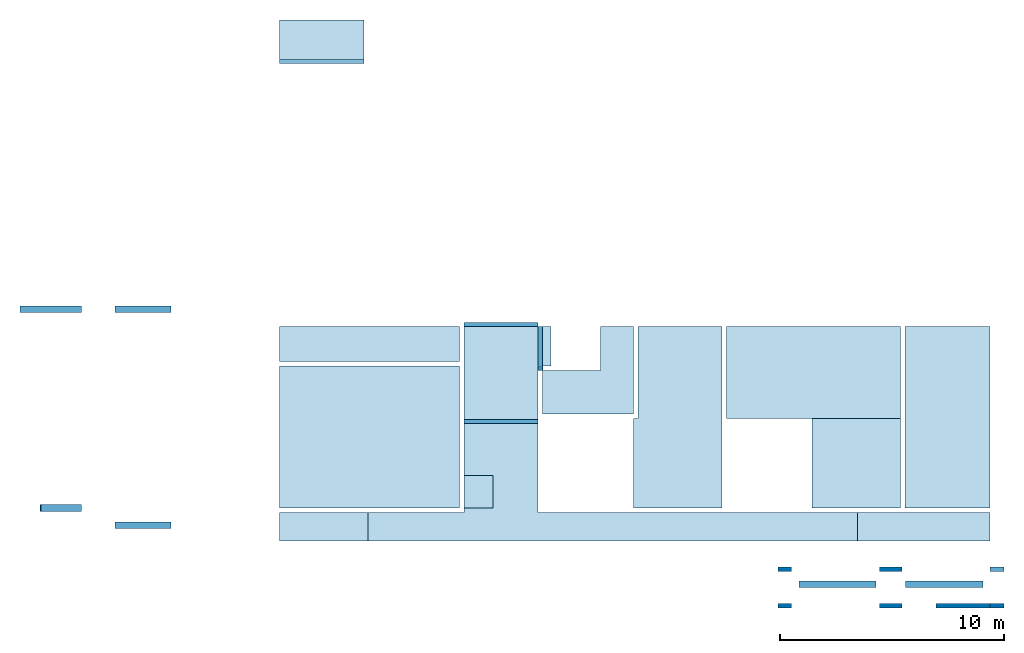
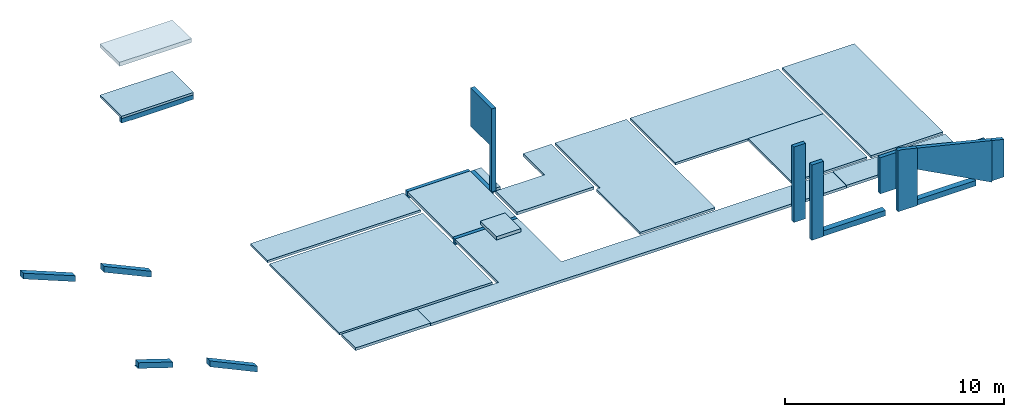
# One storey: 15 slabs, 10 beams, 8 walls, 1 opening.
"""IFC2X3 building model written with IfcOpenShell, lengths in metres."""

from ifc_helpers import new_model, entity, si_unit, converted_unit, derived_unit, direction, frame, frame_2d, origin, origin_2d_with_axis, place, context, subcontext, project, spatial, polyline, rectangle, outline, extrude, clip, halfspace, bounded_halfspace, faceted_brep, material, layer, layer_set, layer_usage, type_object, element, save


model = new_model("IFC2X3")

# Units and contexts
model_context = context("Model", 3, precision=1e-05, world=origin(), true_north=direction((6.12303176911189e-17, 1.0)))
body_context = subcontext(model_context, "Body", "Model", "MODEL_VIEW")
ifc_project = project(units=[si_unit("LENGTHUNIT", "METRE"), si_unit("AREAUNIT", "SQUARE_METRE"), si_unit("VOLUMEUNIT", "CUBIC_METRE"), converted_unit("PLANEANGLEUNIT", "DEGREE", entity("IfcRatioMeasure", 0.0174532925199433), si_unit("PLANEANGLEUNIT", "RADIAN"), dimensions=[0, 0, 0, 0, 0, 0, 0]), si_unit("MASSUNIT", "GRAM", prefix="KILO"), derived_unit("MASSDENSITYUNIT", [(si_unit("MASSUNIT", "GRAM", prefix="KILO"), 1), (si_unit("LENGTHUNIT", "METRE"), -3)]), si_unit("TIMEUNIT", "SECOND"), si_unit("FREQUENCYUNIT", "HERTZ"), si_unit("THERMODYNAMICTEMPERATUREUNIT", "DEGREE_CELSIUS"), derived_unit("THERMALTRANSMITTANCEUNIT", [(si_unit("MASSUNIT", "GRAM", prefix="KILO"), 1), (si_unit("THERMODYNAMICTEMPERATUREUNIT", "KELVIN"), -1), (si_unit("TIMEUNIT", "SECOND"), -3)]), derived_unit("VOLUMETRICFLOWRATEUNIT", [(si_unit("LENGTHUNIT", "METRE"), 3), (si_unit("TIMEUNIT", "SECOND"), -1)]), si_unit("ELECTRICCURRENTUNIT", "AMPERE"), si_unit("ELECTRICVOLTAGEUNIT", "VOLT"), si_unit("POWERUNIT", "WATT"), si_unit("FORCEUNIT", "NEWTON"), si_unit("ILLUMINANCEUNIT", "LUX"), si_unit("LUMINOUSFLUXUNIT", "LUMEN"), si_unit("LUMINOUSINTENSITYUNIT", "CANDELA"), derived_unit("USERDEFINED", [(si_unit("MASSUNIT", "GRAM", prefix="KILO"), -1), (si_unit("LENGTHUNIT", "METRE"), -2), (si_unit("TIMEUNIT", "SECOND"), 3), (si_unit("LUMINOUSFLUXUNIT", "LUMEN"), 1)]), derived_unit("LINEARVELOCITYUNIT", [(si_unit("LENGTHUNIT", "METRE"), 1), (si_unit("TIMEUNIT", "SECOND"), -1)]), si_unit("PRESSUREUNIT", "PASCAL"), derived_unit("USERDEFINED", [(si_unit("LENGTHUNIT", "METRE"), -2), (si_unit("MASSUNIT", "GRAM", prefix="KILO"), 1), (si_unit("TIMEUNIT", "SECOND"), -2)])], contexts=[model_context])

# Site, building, storey
site_placement = place(None, origin())
site = spatial("IfcSite", under=ifc_project, at=site_placement, Name="Default", CompositionType="ELEMENT")
building_placement = place(site_placement, origin())
building = spatial("IfcBuilding", under=site, at=building_placement, CompositionType="ELEMENT")
storey_placement = place(building_placement, frame((0.0, 0.0, -4.62)))
storey = spatial("IfcBuildingStorey", under=building, at=storey_placement, Name="S02", CompositionType="ELEMENT", Elevation=-4.62)

# Beams
ifc_material_1 = material(Name="Béton, coulé sur place gris")
beam_type_1 = type_object("IfcBeamType", Name="20x40ht", PredefinedType="BEAM")
beam_1_placement = place(storey_placement, frame((45.1697436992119, -187.106488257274, -0.420000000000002), z_axis=(0.0, 0.0, 1.0), x_axis=(0.0, -1.0, 0.0)))
element("IfcBeam", 1, at=beam_1_placement, inside=storey, type_object=beam_type_1, material=ifc_material_1, Name="II-Poutre rectangulaire - Béton:20x40ht", ObjectType="II-Poutre rectangulaire - Béton:20x40ht", context=body_context, shape_type="Brep", body=[
    faceted_brep([(0.0, 0.0, 0.400000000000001), (0.0, 0.200000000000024, 0.400000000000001), (-0.200000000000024, 0.200000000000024, 0.400000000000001), (-1.94999999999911, 0.200000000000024, 0.400000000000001), (-1.94999999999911, 0.0, 0.400000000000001), (0.0, 0.0, 0.359999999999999), (-1.94999999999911, 0.0, 0.360000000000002), (-1.94999999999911, 0.0, 0.0), (-0.200000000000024, 0.0, 0.0), (-0.200000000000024, 0.0, 0.359999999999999), (-0.200000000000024, 0.200000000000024, 0.0), (-1.94999999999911, 0.200000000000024, 0.0), (0.0, 0.200000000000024, 0.359999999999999), (-0.200000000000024, 0.200000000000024, 0.359999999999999), (-0.200000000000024, 0.200000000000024, 0.250000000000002), (-1.94999999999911, 0.200000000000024, 0.250000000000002)], [[[0, 1, 2, 3, 4]], [[5, 0, 4, 6, 7, 8, 9]], [[10, 8, 7, 11]], [[1, 12, 13, 14, 10, 11, 15, 3, 2]], [[1, 0, 5, 12]], [[13, 9, 8, 10, 14]], [[9, 13, 12, 5]], [[11, 7, 6, 4, 3, 15]]]),
])
beam_type_2 = type_object("IfcBeamType", Name="18x35ht", PredefinedType="BEAM")
beam_2_placement = place(storey_placement, frame((41.7597436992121, -189.391414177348, 0.0)))
element("IfcBeam", 2, at=beam_2_placement, inside=storey, type_object=beam_type_2, material=ifc_material_1, Name="II-Poutre rectangulaire - Béton:18x35ht", ObjectType="II-Poutre rectangulaire - Béton:18x35ht", context=body_context, shape_type="SweptSolid", body=[
    extrude(outline(polyline([(-0.166666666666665, -0.119448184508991), (0.183333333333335, -0.119448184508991), (0.183333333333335, 0.0605518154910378), (-0.0166666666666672, 0.0605518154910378), (-0.0166666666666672, 0.0588963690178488), (-0.166666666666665, 0.0588963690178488), (-0.166666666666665, -0.119448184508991)])), frame((0.0999999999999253, 0.0294481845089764, -0.186666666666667), z_axis=(1.0, 0.0, 0.0), x_axis=(0.0, 0.0, -1.0)), (0.0, 0.0, 1.0), 3.30999999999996),
])
beam_type_3 = type_object("IfcBeamType", Name="18x40ht", PredefinedType="BEAM")
beam_3_placement = place(storey_placement, frame((41.8597436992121, -185.046488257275, 0.0)))
element("IfcBeam", 3, at=beam_3_placement, inside=storey, type_object=beam_type_3, material=ifc_material_1, Name="II-Poutre rectangulaire - Béton:18x40ht", ObjectType="II-Poutre rectangulaire - Béton:18x40ht", context=body_context, shape_type="SweptSolid", body=[
    extrude(rectangle(XDim=0.4, YDim=0.179999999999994, at=origin_2d_with_axis()), frame((0.0, 0.0, -0.220000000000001), z_axis=(1.0, 0.0, 0.0), x_axis=(0.0, 0.0, -1.0)), (0.0, 0.0, 1.0), 3.30999999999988),
])
beam_4_placement = place(storey_placement, frame((33.5897436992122, -173.388967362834, -0.450000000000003)))
element("IfcBeam", 4, at=beam_4_placement, inside=storey, type_object=beam_type_3, material=ifc_material_1, Name="II-Poutre rectangulaire - Béton:18x40ht", ObjectType="II-Poutre rectangulaire - Béton:18x40ht", context=body_context, shape_type="Brep", body=[
    faceted_brep([(0.0, 0.0, 0.270000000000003), (0.0, 0.0, 0.0200000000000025), (0.499999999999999, 0.0, 0.0200000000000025), (0.499999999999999, 0.0, 0.0), (3.29999999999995, 0.0, 0.0), (3.29999999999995, 0.0, 0.0200000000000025), (3.79999999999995, 0.0, 0.0200000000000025), (3.79999999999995, 0.0, 0.270000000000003), (0.499999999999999, 0.180000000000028, 0.0), (3.29999999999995, 0.180000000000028, 0.0), (0.0, 0.180000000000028, 0.0200000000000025), (0.0, 0.180000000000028, 0.270000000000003), (3.79999999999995, 0.180000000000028, 0.270000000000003), (3.79999999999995, 0.180000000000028, 0.0200000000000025), (3.29999999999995, 0.180000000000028, 0.0200000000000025), (0.500000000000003, 0.180000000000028, 0.0200000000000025)], [[[0, 1, 2, 3, 4, 5, 6, 7]], [[3, 8, 9, 4]], [[10, 11, 12, 13, 14, 9, 8, 15]], [[7, 6, 13, 12]], [[1, 0, 11, 10]], [[0, 7, 12, 11]], [[15, 2, 1, 10]], [[2, 15, 8, 3]], [[5, 14, 13, 6]], [[14, 5, 4, 9]]]),
])
beam_type_4 = type_object("IfcBeamType", Name="30x30ht", PredefinedType="BEAM")
beam_5_placement = place(storey_placement, frame((56.8493859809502, -196.679651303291, 0.0)))
element("IfcBeam", 5, at=beam_5_placement, inside=storey, type_object=beam_type_4, material=ifc_material_1, Name="II-Poutre rectangulaire - Béton:30x30ht", ObjectType="II-Poutre rectangulaire - Béton:30x30ht", context=body_context, shape_type="SweptSolid", body=[
    extrude(rectangle(XDim=0.3, YDim=0.300000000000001, at=origin_2d_with_axis()), frame((0.0, 0.0, -0.570000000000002), z_axis=(1.0, 0.0, 0.0), x_axis=(0.0, 0.0, -1.0)), (0.0, 0.0, 1.0), 3.44297312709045),
])
beam_6_placement = place(storey_placement, frame((61.5923591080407, -196.679651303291, 0.0)))
element("IfcBeam", 6, at=beam_6_placement, inside=storey, type_object=beam_type_4, material=ifc_material_1, Name="II-Poutre rectangulaire - Béton:30x30ht", ObjectType="II-Poutre rectangulaire - Béton:30x30ht", context=body_context, shape_type="SweptSolid", body=[
    extrude(rectangle(XDim=0.299999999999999, YDim=0.300000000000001, at=origin_2d_with_axis()), frame((0.0, 0.0, -0.570000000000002), z_axis=(1.0, 0.0, 0.0), x_axis=(0.0, 0.0, -1.0)), (0.0, 0.0, 1.0), 3.46738459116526),
])
beam_7_placement = place(storey_placement, frame((26.2397436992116, -184.373153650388, 0.92), z_axis=(0.417905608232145, 0.0, 0.908490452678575), x_axis=(0.908490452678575, 0.0, -0.417905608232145)))
element("IfcBeam", 7, at=beam_7_placement, inside=storey, type_object=beam_type_4, material=ifc_material_1, Name="II-Poutre rectangulaire - Béton:30x30ht", ObjectType="II-Poutre rectangulaire - Béton:30x30ht", context=body_context, shape_type="Clipping", body=[
    clip(clip(extrude(rectangle(XDim=0.300000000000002, YDim=0.300000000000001, at=origin_2d_with_axis()), frame((0.0, 0.0, -0.150000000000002), z_axis=(1.0, 0.0, 0.0), x_axis=(0.0, 0.0, -1.0)), (0.0, 0.0, 1.0), 2.88981758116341), halfspace(frame((0.0, -1.25000000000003, 0.0), z_axis=(-0.908490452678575, 0.0, -0.417905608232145), x_axis=(0.417905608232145, 0.0, -0.908490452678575)), False)), halfspace(frame((2.7518175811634, 1.24999999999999, 0.0), z_axis=(0.908490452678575, 0.0, 0.417905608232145), x_axis=(0.417905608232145, 0.0, -0.908490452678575)), False)),
])
beam_8_placement = place(storey_placement, frame((21.9897436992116, -184.373153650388, 2.03), z_axis=(0.37429578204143, 0.0, 0.927309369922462), x_axis=(0.927309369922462, 0.0, -0.37429578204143)))
element("IfcBeam", 8, at=beam_8_placement, inside=storey, type_object=beam_type_4, material=ifc_material_1, Name="II-Poutre rectangulaire - Béton:30x30ht", ObjectType="II-Poutre rectangulaire - Béton:30x30ht", context=body_context, shape_type="Clipping", body=[
    clip(clip(extrude(rectangle(XDim=0.299999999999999, YDim=0.300000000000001, at=frame_2d((-2.08166817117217e-15, 0.0), x_axis=(1.0, 0.0))), frame((0.0, 0.0, -0.150000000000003), z_axis=(1.0, 0.0, 0.0), x_axis=(0.0, 0.0, -1.0)), (0.0, 0.0, 1.0), 3.08665999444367), halfspace(frame((0.0, -1.0, 0.0), z_axis=(-0.927309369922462, 0.0, -0.37429578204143), x_axis=(0.37429578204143, 0.0, -0.927309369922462)), False)), halfspace(frame((2.96556908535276, 1.24999999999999, 0.0), z_axis=(0.927309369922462, 0.0, 0.37429578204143), x_axis=(0.37429578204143, 0.0, -0.927309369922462)), False)),
])
beam_9_placement = place(storey_placement, frame((22.9345176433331, -193.264651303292, 2.10160398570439), z_axis=(0.30901699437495, 0.0, 0.951056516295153), x_axis=(0.951056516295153, 0.0, -0.30901699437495)))
element("IfcBeam", 9, at=beam_9_placement, inside=storey, type_object=beam_type_4, material=ifc_material_1, Name="II-Poutre rectangulaire - Béton:30x30ht", ObjectType="II-Poutre rectangulaire - Béton:30x30ht", context=body_context, shape_type="Clipping", body=[
    clip(clip(clip(extrude(rectangle(XDim=0.299999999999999, YDim=0.300000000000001, at=frame_2d((0.0, 1.42941214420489e-15), x_axis=(0.0, 1.0))), frame((0.0, 0.0, -0.15), z_axis=(1.0, 0.0, 0.0), x_axis=(0.0, 1.0, 0.0)), (0.0, 0.0, 1.0), 1.99560291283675), halfspace(frame((1.89622669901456, -2.02833429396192, 0.00584853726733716), z_axis=(0.951056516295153, 0.0, 0.30901699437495), x_axis=(0.30901699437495, 0.0, -0.951056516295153)), False)), bounded_halfspace(frame((0.0, -0.500000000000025, 0.0), z_axis=(-0.951056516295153, 0.0, -0.30901699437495), x_axis=(0.30901699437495, 0.0, -0.951056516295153)), False, frame((0.0, 0.0, -0.15), z_axis=(1.0, 0.0, 0.0), x_axis=(0.0, 1.0, 0.0)), polyline([(0.150000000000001, -0.135316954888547), (-0.150000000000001, -0.135316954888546), (-0.150000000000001, 0.15), (0.150000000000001, 0.149999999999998), (0.150000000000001, -0.135316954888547)]))), bounded_halfspace(frame((-0.858351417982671, 0.49999999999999, -0.594333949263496), z_axis=(-0.30901699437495, 0.0, 0.951056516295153), x_axis=(0.951056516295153, 0.0, 0.30901699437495)), False, frame((0.0, 0.0, -0.15), z_axis=(1.0, 0.0, 0.0), x_axis=(0.0, 1.0, 0.0)), polyline([(-0.150000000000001, -0.135316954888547), (0.150000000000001, -0.135316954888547), (0.150000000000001, -0.15), (-0.150000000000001, -0.149999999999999), (-0.150000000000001, -0.135316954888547)]))),
])
beam_10_placement = place(storey_placement, frame((26.2397436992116, -194.042985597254, 1.52120000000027), z_axis=(0.422618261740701, 0.0, 0.906307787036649), x_axis=(0.906307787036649, 0.0, -0.422618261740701)))
element("IfcBeam", 10, at=beam_10_placement, inside=storey, type_object=beam_type_4, material=ifc_material_1, Name="II-Poutre rectangulaire - Béton:30x30ht", ObjectType="II-Poutre rectangulaire - Béton:30x30ht", context=body_context, shape_type="Clipping", body=[
    clip(clip(extrude(rectangle(XDim=0.300000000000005, YDim=0.300000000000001, at=frame_2d((-2.4980018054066e-16, 0.0), x_axis=(1.0, 0.0))), frame((0.0, 0.0, -0.150000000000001), z_axis=(1.0, 0.0, 0.0), x_axis=(0.0, 0.0, -1.0)), (0.0, 0.0, 1.0), 2.89833709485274), halfspace(frame((0.0, 1.25000000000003, 0.0), z_axis=(-0.906307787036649, 0.0, -0.422618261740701), x_axis=(0.422618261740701, 0.0, -0.906307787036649)), False)), halfspace(frame((2.75178046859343, -1.24999999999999, 0.0142916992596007), z_axis=(0.906307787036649, 0.0, 0.422618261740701), x_axis=(0.422618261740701, 0.0, -0.906307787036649)), False)),
])

# Slabs
ifc_material_2 = material(Name="Sol par défaut")
ifc_layer_1 = layer(ifc_material_2, 0.13)
ifc_layer_set_1 = layer_set([ifc_layer_1], Name="Floor:Dallage ép.13cm")
ifc_layer_usage_1 = layer_usage(ifc_layer_set_1, "AXIS3", "POSITIVE", 0.0)
slab_type_1 = type_object("IfcSlabType", Name="Floor:Dallage ép.13cm", PredefinedType="FLOOR", material=ifc_layer_set_1)
slab_1_placement = place(storey_placement, origin())
element("IfcSlab", 11, at=slab_1_placement, inside=storey, type_object=slab_type_1, material=ifc_layer_usage_1, Name="Floor:Dallage ép.13cm", ObjectType="Floor:Dallage ép.13cm", PredefinedType="FLOOR", context=body_context, shape_type="SweptSolid", body=[
    extrude(rectangle(XDim=6.34516304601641, YDim=8.06999999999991, at=frame_2d((1.75415237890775e-14, 0.0), x_axis=(1.0, 0.0))), frame((37.6247436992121, -190.087069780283, -0.0599999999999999), z_axis=(0.0, 0.0, -1.0), x_axis=(0.0, 1.0, 0.0)), (0.0, 0.0, 1.0), 0.13),
])
ifc_layer_2 = layer(ifc_material_2, 0.15)
ifc_layer_set_2 = layer_set([ifc_layer_2], Name="Floor:Dalle portée ép.15cm")
ifc_layer_usage_2 = layer_usage(ifc_layer_set_2, "AXIS3", "POSITIVE", 0.0)
slab_type_2 = type_object("IfcSlabType", Name="Floor:Dalle portée ép.15cm", PredefinedType="FLOOR", material=ifc_layer_set_2)
slab_2_placement = place(storey_placement, origin())
element("IfcSlab", 12, at=slab_2_placement, inside=storey, type_object=slab_type_2, material=ifc_layer_usage_2, Name="Floor:Dalle portée ép.15cm", ObjectType="Floor:Dalle portée ép.15cm", PredefinedType="FLOOR", context=body_context, shape_type="SweptSolid", body=[
    extrude(rectangle(XDim=4.16658136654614, YDim=3.30999999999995, at=frame_2d((0.0, 4.32986979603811e-15), x_axis=(1.0, 0.0))), frame((43.514743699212, -187.219778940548, -0.0199999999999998), z_axis=(0.0, 0.0, -1.0), x_axis=(0.0, 1.0, 0.0)), (0.0, 0.0, 1.0), 0.15),
])
ifc_layer_usage_3 = layer_usage(ifc_layer_set_2, "AXIS3", "POSITIVE", 0.0)
slab_type_3 = type_object("IfcSlabType", Name="Floor:Dalle portée ép.15cm", PredefinedType="FLOOR", material=ifc_layer_set_2)
slab_3_placement = place(storey_placement, origin())
element("IfcSlab", 13, at=slab_3_placement, inside=storey, type_object=slab_type_3, material=ifc_layer_usage_3, Name="Floor:Dalle portée ép.15cm", ObjectType="Floor:Dalle portée ép.15cm", PredefinedType="FLOOR", context=body_context, shape_type="SweptSolid", body=[
    extrude(outline(polyline([(-1.95772091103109, -2.21333333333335), (0.00386045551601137, -2.21333333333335), (0.00386045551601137, 0.366666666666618), (1.95386045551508, 0.366666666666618), (1.95386045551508, 1.84666666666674), (-1.95772091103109, 1.84666666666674), (-1.95772091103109, -2.21333333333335)])), frame((47.5830770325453, -187.11034871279, -0.00999999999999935), z_axis=(0.0, 0.0, -1.0), x_axis=(0.0, 1.0, 0.0)), (0.0, 0.0, 1.0), 0.15),
])
ifc_layer_usage_4 = layer_usage(ifc_layer_set_1, "AXIS3", "POSITIVE", 0.0)
slab_type_4 = type_object("IfcSlabType", Name="Floor:Dallage ép.13cm", PredefinedType="FLOOR", material=ifc_layer_set_1)
slab_4_placement = place(storey_placement, origin())
element("IfcSlab", 14, at=slab_4_placement, inside=storey, type_object=slab_type_4, material=ifc_layer_usage_4, Name="Floor:Dallage ép.13cm", ObjectType="Floor:Dallage ép.13cm", PredefinedType="FLOOR", context=body_context, shape_type="SweptSolid", body=[
    extrude(outline(polyline([(-4.03158157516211, -1.38666666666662), (-0.0399998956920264, -1.38666666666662), (-0.0399998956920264, -1.18666666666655), (4.07158147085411, -1.18666666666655), (4.07158147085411, 2.57333333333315), (-4.03158157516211, 2.57333333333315), (-4.03158157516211, -1.38666666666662)])), frame((50.8164103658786, -189.228069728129, -0.00999999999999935), z_axis=(0.0, 0.0, -1.0), x_axis=(0.0, 1.0, 0.0)), (0.0, 0.0, 1.0), 0.13),
])
ifc_layer_usage_5 = layer_usage(ifc_layer_set_1, "AXIS3", "POSITIVE", 0.0)
slab_type_5 = type_object("IfcSlabType", Name="Floor:Dallage ép.13cm", PredefinedType="FLOOR", material=ifc_layer_set_1)
slab_5_placement = place(storey_placement, origin())
element("IfcSlab", 15, at=slab_5_placement, inside=storey, type_object=slab_type_5, material=ifc_layer_usage_5, Name="Floor:Dallage ép.13cm", ObjectType="Floor:Dallage ép.13cm", PredefinedType="FLOOR", context=body_context, shape_type="SweptSolid", body=[
    extrude(rectangle(XDim=4.11158152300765, YDim=7.79999999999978, at=frame_2d((-1.73194791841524e-14, 4.21884749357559e-15), x_axis=(1.0, 0.0))), frame((57.4897436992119, -187.212279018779, -0.00999999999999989), z_axis=(0.0, 0.0, -1.0), x_axis=(0.0, 1.0, 0.0)), (0.0, 0.0, 1.0), 0.13),
])
ifc_layer_usage_6 = layer_usage(ifc_layer_set_1, "AXIS3", "POSITIVE", 0.0)
slab_type_6 = type_object("IfcSlabType", Name="Floor:Dallage ép.13cm", PredefinedType="FLOOR", material=ifc_layer_set_1)
slab_6_placement = place(storey_placement, origin())
element("IfcSlab", 16, at=slab_6_placement, inside=storey, type_object=slab_type_6, material=ifc_layer_usage_6, Name="Floor:Dallage ép.13cm", ObjectType="Floor:Dallage ép.13cm", PredefinedType="FLOOR", context=body_context, shape_type="SweptSolid", body=[
    extrude(rectangle(XDim=3.99158152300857, YDim=3.96, at=frame_2d((-1.73194791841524e-14, 0.0), x_axis=(1.0, 0.0))), frame((59.4097436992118, -191.263860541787, 0.0), z_axis=(0.0, 0.0, -1.0), x_axis=(0.0, 1.0, 0.0)), (0.0, 0.0, 1.0), 0.13),
])
ifc_layer_usage_7 = layer_usage(ifc_layer_set_1, "AXIS3", "POSITIVE", 0.0)
slab_type_7 = type_object("IfcSlabType", Name="Floor:Dallage ép.13cm", PredefinedType="FLOOR", material=ifc_layer_set_1)
slab_7_placement = place(storey_placement, origin())
element("IfcSlab", 17, at=slab_7_placement, inside=storey, type_object=slab_type_7, material=ifc_layer_usage_7, Name="Floor:Dallage ép.13cm", ObjectType="Floor:Dallage ép.13cm", PredefinedType="FLOOR", context=body_context, shape_type="SweptSolid", body=[
    extrude(rectangle(XDim=8.10316304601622, YDim=3.79999999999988, at=origin_2d_with_axis()), frame((63.4897436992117, -189.208069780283, 0.0), z_axis=(0.0, 0.0, -1.0), x_axis=(0.0, 1.0, 0.0)), (0.0, 0.0, 1.0), 0.13),
])
ifc_layer_usage_8 = layer_usage(ifc_layer_set_2, "AXIS3", "POSITIVE", 0.0)
slab_type_8 = type_object("IfcSlabType", Name="Floor:Dalle portée ép.15cm", PredefinedType="FLOOR", material=ifc_layer_set_2)
slab_8_placement = place(storey_placement, origin())
element("IfcSlab", 18, at=slab_8_placement, inside=storey, type_object=slab_type_8, material=ifc_layer_usage_8, Name="Floor:Dalle portée ép.15cm", ObjectType="Floor:Dalle portée ép.15cm", PredefinedType="FLOOR", context=body_context, shape_type="SweptSolid", body=[
    extrude(outline(polyline([(-1.9558109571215, -8.45749999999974), (-0.67414205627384, -8.45749999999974), (-0.67414205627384, -4.14749999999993), (3.30409506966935, -4.14749999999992), (3.30409506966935, -0.837500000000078), (-0.674142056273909, -0.837500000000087), (-0.674142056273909, 13.4424999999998), (-1.9558109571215, 13.4424999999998), (-1.9558109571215, -8.45749999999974)])), frame((46.007243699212, -192.785509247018, -0.0199999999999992), z_axis=(0.0, 0.0, -1.0), x_axis=(0.0, 1.0, 0.0)), (0.0, 0.0, 1.0), 0.15),
])
ifc_layer_usage_9 = layer_usage(ifc_layer_set_1, "AXIS3", "POSITIVE", 0.0)
slab_type_9 = type_object("IfcSlabType", Name="Floor:Dallage ép.13cm", PredefinedType="FLOOR", material=ifc_layer_set_1)
slab_9_placement = place(storey_placement, origin())
element("IfcSlab", 19, at=slab_9_placement, inside=storey, type_object=slab_type_9, material=ifc_layer_usage_9, Name="Floor:Dallage ép.13cm", ObjectType="Floor:Dallage ép.13cm", PredefinedType="FLOOR", context=body_context, shape_type="SweptSolid", body=[
    extrude(rectangle(XDim=1.55799999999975, YDim=8.06999999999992, at=origin_2d_with_axis()), frame((37.6247436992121, -185.935488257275, 0.0), z_axis=(0.0, 0.0, -1.0), x_axis=(0.0, 1.0, 0.0)), (0.0, 0.0, 1.0), 0.13),
])
ifc_layer_usage_10 = layer_usage(ifc_layer_set_2, "AXIS3", "POSITIVE", 0.0)
slab_type_10 = type_object("IfcSlabType", Name="Floor:Dalle portée ép.15cm", PredefinedType="FLOOR", material=ifc_layer_set_2)
slab_10_placement = place(storey_placement, origin())
element("IfcSlab", 20, at=slab_10_placement, inside=storey, type_object=slab_type_10, material=ifc_layer_usage_10, Name="Floor:Dalle portée ép.15cm", ObjectType="Floor:Dalle portée ép.15cm", PredefinedType="FLOOR", context=body_context, shape_type="SweptSolid", body=[
    extrude(rectangle(XDim=1.74999999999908, YDim=0.379999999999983, at=origin_2d_with_axis()), frame((45.559743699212, -186.031488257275, -0.0199999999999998), z_axis=(0.0, 0.0, -1.0), x_axis=(0.0, 1.0, 0.0)), (0.0, 0.0, 1.0), 0.15),
])
ifc_layer_usage_11 = layer_usage(ifc_layer_set_2, "AXIS3", "POSITIVE", 0.0)
slab_type_11 = type_object("IfcSlabType", Name="Floor:Dalle portée ép.15cm", PredefinedType="FLOOR", material=ifc_layer_set_2)
slab_11_placement = place(storey_placement, origin())
element("IfcSlab", 21, at=slab_11_placement, inside=storey, type_object=slab_type_11, material=ifc_layer_usage_11, Name="Floor:Dalle portée ép.15cm", ObjectType="Floor:Dalle portée ép.15cm", PredefinedType="FLOOR", context=body_context, shape_type="SweptSolid", body=[
    extrude(rectangle(XDim=1.28166890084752, YDim=5.93999999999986, at=origin_2d_with_axis()), frame((62.4197436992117, -194.100485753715, 0.0), z_axis=(0.0, 0.0, -1.0), x_axis=(0.0, 1.0, 0.0)), (0.0, 0.0, 1.0), 0.15),
])
ifc_layer_usage_12 = layer_usage(ifc_layer_set_2, "AXIS3", "POSITIVE", 0.0)
slab_type_12 = type_object("IfcSlabType", Name="Floor:Dalle portée ép.15cm", PredefinedType="FLOOR", material=ifc_layer_set_2)
slab_12_placement = place(storey_placement, origin())
element("IfcSlab", 22, at=slab_12_placement, inside=storey, type_object=slab_type_12, material=ifc_layer_usage_12, Name="Floor:Dalle portée ép.15cm", ObjectType="Floor:Dalle portée ép.15cm", PredefinedType="FLOOR", context=body_context, shape_type="SweptSolid", body=[
    extrude(rectangle(XDim=1.28166890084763, YDim=3.9600000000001, at=frame_2d((-1.73194791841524e-14, 4.32986979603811e-15), x_axis=(1.0, 0.0))), frame((35.5697436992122, -194.100485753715, 0.0), z_axis=(0.0, 0.0, -1.0), x_axis=(0.0, 1.0, 0.0)), (0.0, 0.0, 1.0), 0.15),
])
ifc_layer_3 = layer(ifc_material_2, 0.19)
ifc_layer_set_3 = layer_set([ifc_layer_3], Name="Floor:Dalle BA ép.19")
ifc_layer_usage_13 = layer_usage(ifc_layer_set_3, "AXIS3", "POSITIVE", 0.0)
slab_type_13 = type_object("IfcSlabType", Name="Floor:Dalle BA ép.19", PredefinedType="FLOOR", material=ifc_layer_set_3)
slab_13_placement = place(storey_placement, origin())
element("IfcSlab", 23, at=slab_13_placement, inside=storey, type_object=slab_type_13, material=ifc_layer_usage_13, Name="Floor:Dalle BA ép.19", ObjectType="Floor:Dalle BA ép.19", PredefinedType="FLOOR", context=body_context, shape_type="SweptSolid", body=[
    extrude(rectangle(XDim=1.44000000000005, YDim=1.29999999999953, at=frame_2d((-1.73194791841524e-14, 0.0), x_axis=(1.0, 0.0))), frame((42.5097436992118, -192.539651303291, 2.4), z_axis=(0.0, 0.0, -1.0), x_axis=(0.0, 1.0, 0.0)), (0.0, 0.0, 1.0), 0.19),
])
ifc_layer_usage_14 = layer_usage(ifc_layer_set_1, "AXIS3", "POSITIVE", 0.0)
slab_type_14 = type_object("IfcSlabType", Name="Floor:Dallage ép.13cm", PredefinedType="FLOOR", material=ifc_layer_set_1)
slab_14_placement = place(storey_placement, origin())
element("IfcSlab", 24, at=slab_14_placement, inside=storey, type_object=slab_type_14, material=ifc_layer_usage_14, Name="Floor:Dallage ép.13cm", ObjectType="Floor:Dallage ép.13cm", PredefinedType="FLOOR", context=body_context, shape_type="SweptSolid", body=[
    extrude(rectangle(XDim=1.9541845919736, YDim=3.79999999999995, at=origin_2d_with_axis()), frame((35.4897436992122, -172.411875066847, -0.05), z_axis=(0.0, 0.0, -1.0), x_axis=(0.0, 1.0, 0.0)), (0.0, 0.0, 1.0), 0.13),
])
ifc_layer_4 = layer(ifc_material_2, 0.18)
ifc_layer_set_4 = layer_set([ifc_layer_4], Name="Floor:Dalle BA pente ép.18mini")
ifc_layer_usage_15 = layer_usage(ifc_layer_set_4, "AXIS3", "POSITIVE", 0.0)
slab_type_15 = type_object("IfcSlabType", Name="Floor:Dalle BA pente ép.18mini", PredefinedType="FLOOR", material=ifc_layer_set_4)
slab_15_placement = place(storey_placement, origin())
element("IfcSlab", 25, at=slab_15_placement, inside=storey, type_object=slab_type_15, material=ifc_layer_usage_15, Name="Floor:Dalle BA pente ép.18mini", ObjectType="Floor:Dalle BA pente ép.18mini", PredefinedType="FLOOR", context=body_context, shape_type="Clipping", body=[
    clip(clip(extrude(rectangle(XDim=1.77239862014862, YDim=3.79999999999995, at=frame_2d((-1.73194791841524e-14, 0.0), x_axis=(1.0, 0.0))), frame((35.4897436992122, -172.320756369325, 2.82), z_axis=(0.0, -0.0225682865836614, -0.999745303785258), x_axis=(0.0, 0.999745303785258, -0.0225682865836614)), (0.0225682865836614, 0.0, 0.999745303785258), 0.220056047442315), halfspace(frame((37.5497436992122, -171.43478277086, 2.62), z_axis=(0.0, 0.0, -1.0), x_axis=(1.0, 0.0, 0.0)), False)), halfspace(frame((35.4897436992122, -172.320756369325, 2.82), z_axis=(0.0, 0.0225682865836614, 0.999745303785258), x_axis=(1.0, 0.0, 0.0)), False)),
])

# Walls
ifc_material_3 = material(Name="Mur par défaut")
ifc_layer_5 = layer(ifc_material_3, 0.2)
ifc_layer_set_5 = layer_set([ifc_layer_5], Name="Basic Wall:Mur BA - 20cm")
ifc_layer_usage_16 = layer_usage(ifc_layer_set_5, "AXIS2", "NEGATIVE", 0.1)
wall_type_1 = type_object("IfcWallType", Name="Basic Wall:Mur BA - 20cm", PredefinedType="STANDARD", material=ifc_layer_set_5)
wall_1_placement = place(storey_placement, frame((66.0097436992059, -196.001320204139, 0.0), z_axis=(0.0, 0.0, 1.0), x_axis=(-1.0, 0.0, 0.0)))
element("IfcWallStandardCase", 26, at=wall_1_placement, inside=storey, type_object=wall_type_1, material=ifc_layer_usage_16, Name="Basic Wall:Mur BA - 20cm", ObjectType="Basic Wall:Mur BA - 20cm", context=body_context, shape_type="SweptSolid", body=[
    extrude(rectangle(XDim=0.61999999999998, YDim=0.200000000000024, at=frame_2d((0.30999999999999, 1.08940634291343e-15), x_axis=(-1.0, 0.0))), origin(), (0.0, 0.0, 1.0), 1.08278944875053),
])
ifc_layer_usage_17 = layer_usage(ifc_layer_set_5, "AXIS2", "NEGATIVE", 0.1)
wall_2_placement = place(storey_placement, frame((56.5099742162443, -196.001320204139, 0.0), z_axis=(0.0, 0.0, 1.0), x_axis=(-1.0, 0.0, 0.0)))
element("IfcWallStandardCase", 27, at=wall_2_placement, inside=storey, type_object=wall_type_1, material=ifc_layer_usage_17, Name="Basic Wall:Mur BA - 20cm", ObjectType="Basic Wall:Mur BA - 20cm", context=body_context, shape_type="SweptSolid", body=[
    extrude(rectangle(XDim=0.621176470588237, YDim=0.200000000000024, at=frame_2d((0.310588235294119, 0.0), x_axis=(-1.0, 0.0))), origin(), (0.0, 0.0, 1.0), 4.2),
])
ifc_layer_usage_18 = layer_usage(ifc_layer_set_5, "AXIS2", "NEGATIVE", 0.1)
wall_3_placement = place(storey_placement, frame((61.4499742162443, -196.001320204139, 0.0), z_axis=(0.0, 0.0, 1.0), x_axis=(-1.0, 0.0, 0.0)))
element("IfcWallStandardCase", 28, at=wall_3_placement, inside=storey, type_object=wall_type_1, material=ifc_layer_usage_18, Name="Basic Wall:Mur BA - 20cm", ObjectType="Basic Wall:Mur BA - 20cm", context=body_context, shape_type="SweptSolid", body=[
    extrude(rectangle(XDim=1.01523021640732, YDim=0.200000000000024, at=frame_2d((0.507615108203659, 0.0), x_axis=(-1.0, 0.0))), origin(), (0.0, 0.0, 1.0), 2.01158771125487),
])
ifc_layer_usage_19 = layer_usage(ifc_layer_set_5, "AXIS2", "NEGATIVE", 0.1)
wall_4_placement = place(storey_placement, frame((56.5099742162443, -197.646420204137, 0.0), z_axis=(0.0, 0.0, 1.0), x_axis=(-1.0, 0.0, 0.0)))
element("IfcWallStandardCase", 29, at=wall_4_placement, inside=storey, type_object=wall_type_1, material=ifc_layer_usage_19, Name="Basic Wall:Mur BA - 20cm", ObjectType="Basic Wall:Mur BA - 20cm", context=body_context, shape_type="SweptSolid", body=[
    extrude(rectangle(XDim=0.621176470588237, YDim=0.200000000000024, at=frame_2d((0.310588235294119, 0.0), x_axis=(-1.0, 0.0))), origin(), (0.0, 0.0, 1.0), 4.2),
])
ifc_layer_usage_20 = layer_usage(ifc_layer_set_5, "AXIS2", "NEGATIVE", 0.1)
wall_5_placement = place(storey_placement, frame((61.4499742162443, -197.646420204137, 0.0), z_axis=(0.0, 0.0, 1.0), x_axis=(-1.0, 0.0, 0.0)))
element("IfcWallStandardCase", 30, at=wall_5_placement, inside=storey, type_object=wall_type_1, material=ifc_layer_usage_20, Name="Basic Wall:Mur BA - 20cm", ObjectType="Basic Wall:Mur BA - 20cm", context=body_context, shape_type="Clipping", body=[
    clip(extrude(rectangle(XDim=1.01523021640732, YDim=0.200000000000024, at=frame_2d((0.507615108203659, 0.0), x_axis=(-1.0, 0.0))), origin(), (0.0, 0.0, 1.0), 3.40206920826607), halfspace(frame((0.0, -0.0999999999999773, 3.20213338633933), z_axis=(-0.237190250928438, 0.0, 0.971463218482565), x_axis=(0.0, 1.0, 0.0)), False)),
])

# Wall, opening
ifc_layer_6 = layer(ifc_material_3, 0.22)
ifc_layer_set_6 = layer_set([ifc_layer_6], Name="Basic Wall:Mur BA - 22cm")
ifc_layer_usage_21 = layer_usage(ifc_layer_set_6, "AXIS2", "NEGATIVE", 0.11)
wall_type_2 = type_object("IfcWallType", Name="Basic Wall:Mur BA - 22cm", PredefinedType="STANDARD", material=ifc_layer_set_6)
wall_6_placement = place(storey_placement, frame((45.279743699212, -185.156488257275, 0.0), z_axis=(0.0, 0.0, 1.0), x_axis=(0.0, -1.0, 0.0)))
wall_6 = element("IfcWallStandardCase", 31, at=wall_6_placement, inside=storey, type_object=wall_type_2, material=ifc_layer_usage_21, Name="Basic Wall:Mur BA - 22cm", ObjectType="Basic Wall:Mur BA - 22cm", context=body_context, shape_type="SweptSolid", body=[
    extrude(rectangle(XDim=1.94999999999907, YDim=0.220000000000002, at=frame_2d((0.974999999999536, 2.08166817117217e-15), x_axis=(-1.0, 0.0))), origin(), (0.0, 0.0, 1.0), 4.62),
])
opening_placement = place(wall_6_placement, frame((-185.156488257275, -45.279743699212, 0.0), z_axis=(0.0, 0.0, 1.0), x_axis=(0.0, 1.0, 0.0)))
element("IfcOpeningElement", 32, at=opening_placement, cuts=wall_6, Name="Basic Wall:Mur BA - 22cm", ObjectType="Opening", context=body_context, shape_type="SweptSolid", body=[
    extrude(rectangle(XDim=2.49999999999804, YDim=1.74999999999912, at=frame_2d((-1.73194791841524e-14, 0.0), x_axis=(0.0, 1.0))), frame((43.645743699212, -186.031488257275, 1.24999999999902), z_axis=(1.0, 0.0, 0.0), x_axis=(0.0, 1.0, 0.0)), (0.0, 0.0, 1.0), 3.048),
])

# Walls
ifc_layer_7 = layer(ifc_material_3, 0.2)
ifc_layer_set_7 = layer_set([ifc_layer_7], Name="Basic Wall:Mur BA Contre terre - 20cm")
ifc_layer_usage_22 = layer_usage(ifc_layer_set_7, "AXIS2", "NEGATIVE", 0.1)
wall_type_3 = type_object("IfcWallType", Name="Basic Wall:Mur BA Contre terre - 20cm", PredefinedType="STANDARD", material=ifc_layer_set_7)
wall_7_placement = place(storey_placement, frame((66.0097436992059, -197.646420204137, 0.0), z_axis=(0.0, 0.0, 1.0), x_axis=(-1.0, 0.0, 0.0)))
element("IfcWallStandardCase", 33, at=wall_7_placement, inside=storey, type_object=wall_type_3, material=ifc_layer_usage_22, Name="Basic Wall:Mur BA Contre terre - 20cm", ObjectType="Basic Wall:Mur BA Contre terre - 20cm", context=body_context, shape_type="Clipping", body=[
    clip(extrude(rectangle(XDim=0.61999999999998, YDim=0.200000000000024, at=frame_2d((0.30999999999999, 1.08940634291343e-15), x_axis=(-1.0, 0.0))), origin(), (0.0, 0.0, 1.0), 2.24020822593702), halfspace(frame((0.0, -0.0999999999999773, 2.08883043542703), z_axis=(-0.237190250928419, 0.0, 0.97146321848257), x_axis=(0.0, 1.0, 0.0)), False)),
])
ifc_layer_usage_23 = layer_usage(ifc_layer_set_7, "AXIS2", "NEGATIVE", 0.1)
wall_8_placement = place(storey_placement, frame((65.3897436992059, -197.646420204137, -0.087601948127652), z_axis=(0.0, 0.0, 1.0), x_axis=(-1.0, 0.0, 0.0)))
element("IfcWallStandardCase", 34, at=wall_8_placement, inside=storey, type_object=wall_type_3, material=ifc_layer_usage_23, Name="Basic Wall:Mur BA Contre terre - 20cm", ObjectType="Basic Wall:Mur BA Contre terre - 20cm", context=body_context, shape_type="Clipping", body=[
    clip(clip(extrude(rectangle(XDim=3.93976948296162, YDim=0.200000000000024, at=frame_2d((1.96988474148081, 0.0), x_axis=(-1.0, 0.0))), origin(), (0.0, 0.0, 1.0), 3.28973533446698), halfspace(frame((3.93976948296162, -0.0999999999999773, 2.1012103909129), z_axis=(0.470588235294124, 0.0, -0.882352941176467), x_axis=(0.0, 1.0, 0.0)), False)), halfspace(frame((0.0, -0.0999999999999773, 2.32781017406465), z_axis=(-0.237190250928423, 0.0, 0.971463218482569), x_axis=(0.0, 1.0, 0.0)), False)),
])

save(model, "model.ifc")
